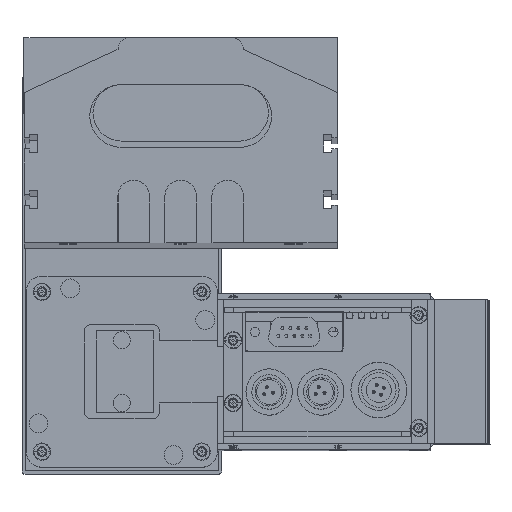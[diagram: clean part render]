
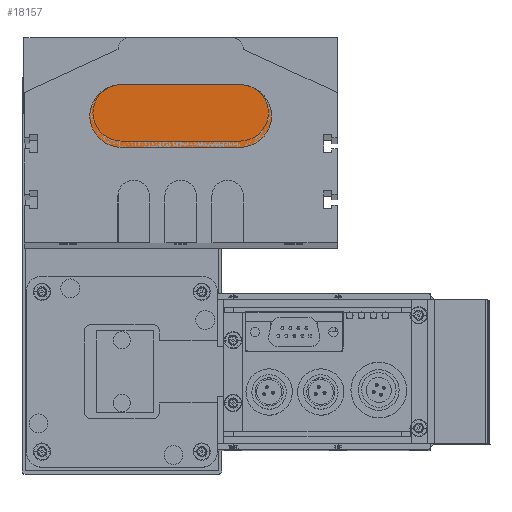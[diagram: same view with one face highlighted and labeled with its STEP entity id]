
A CAD part, top view. The second image highlights one B-rep face of the part: STEP entity #18157.
In plain terms, the highlighted planar face has unit normal (0, 0, 1).
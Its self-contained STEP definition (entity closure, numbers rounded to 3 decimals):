
#17914 = EDGE_CURVE ( 'NONE', #17977, #17982, #29071, .T. ) ;
#17977 = VERTEX_POINT ( 'NONE', #29154 ) ;
#17982 = VERTEX_POINT ( 'NONE', #29204 ) ;
#18033 = VERTEX_POINT ( 'NONE', #29257 ) ;
#18047 = VERTEX_POINT ( 'NONE', #29284 ) ;
#18048 = EDGE_CURVE ( 'NONE', #18047, #17977, #29291, .T. ) ;
#18070 = ORIENTED_EDGE ( 'NONE', *, *, #18109, .T. ) ;
#18071 = VERTEX_POINT ( 'NONE', #29354 ) ;
#18075 = EDGE_LOOP ( 'NONE', ( #18133, #18151, #18131, #18070, #18155 ) ) ;
#18077 = EDGE_CURVE ( 'NONE', #17982, #18033, #29390, .T. ) ;
#18107 = EDGE_CURVE ( 'NONE', #18071, #18047, #29469, .T. ) ;
#18109 = EDGE_CURVE ( 'NONE', #18033, #18071, #29463, .T. ) ;
#18131 = ORIENTED_EDGE ( 'NONE', *, *, #18077, .T. ) ;
#18133 = ORIENTED_EDGE ( 'NONE', *, *, #18048, .T. ) ;
#18151 = ORIENTED_EDGE ( 'NONE', *, *, #17914, .T. ) ;
#18155 = ORIENTED_EDGE ( 'NONE', *, *, #18107, .T. ) ;
#18157 = ADVANCED_FACE ( 'NONE', ( #29512 ), #29552, .T. ) ;
#29066 = DIRECTION ( 'NONE',  ( 1., 0., 0. ) ) ;
#29067 = DIRECTION ( 'NONE',  ( 0., 0., 1. ) ) ;
#29068 = AXIS2_PLACEMENT_3D ( 'NONE', #29081, #29067, #29066 ) ;
#29071 = CIRCLE ( 'NONE', #29068, 10. ) ;
#29081 = CARTESIAN_POINT ( 'NONE',  ( 0., 10., 10. ) ) ;
#29154 = CARTESIAN_POINT ( 'NONE',  ( -10., 10., 10. ) ) ;
#29204 = CARTESIAN_POINT ( 'NONE',  ( 0., 0., 10. ) ) ;
#29257 = CARTESIAN_POINT ( 'NONE',  ( 38., 0., 10. ) ) ;
#29284 = CARTESIAN_POINT ( 'NONE',  ( 0., 20., 10. ) ) ;
#29291 = CIRCLE ( 'NONE', #29344, 10. ) ;
#29331 = DIRECTION ( 'NONE',  ( 1., 0., 0. ) ) ;
#29332 = DIRECTION ( 'NONE',  ( 0., 0., 1. ) ) ;
#29333 = CARTESIAN_POINT ( 'NONE',  ( 0., 10., 10. ) ) ;
#29344 = AXIS2_PLACEMENT_3D ( 'NONE', #29333, #29332, #29331 ) ;
#29354 = CARTESIAN_POINT ( 'NONE',  ( 38., 20., 10. ) ) ;
#29387 = DIRECTION ( 'NONE',  ( 1., 0., 0. ) ) ;
#29388 = VECTOR ( 'NONE', #29387, 1000. ) ;
#29389 = CARTESIAN_POINT ( 'NONE',  ( 0., 0., 10. ) ) ;
#29390 = LINE ( 'NONE', #29389, #29388 ) ;
#29438 = DIRECTION ( 'NONE',  ( -1., 0., 0. ) ) ;
#29439 = DIRECTION ( 'NONE',  ( 0., 0., 1. ) ) ;
#29440 = CARTESIAN_POINT ( 'NONE',  ( 38., 10., 10. ) ) ;
#29441 = AXIS2_PLACEMENT_3D ( 'NONE', #29440, #29439, #29438 ) ;
#29447 = DIRECTION ( 'NONE',  ( -1., 0., 0. ) ) ;
#29448 = VECTOR ( 'NONE', #29447, 1000. ) ;
#29452 = CARTESIAN_POINT ( 'NONE',  ( 0., 20., 10. ) ) ;
#29463 = CIRCLE ( 'NONE', #29441, 10. ) ;
#29469 = LINE ( 'NONE', #29452, #29448 ) ;
#29512 = FACE_OUTER_BOUND ( 'NONE', #18075, .T. ) ;
#29538 = DIRECTION ( 'NONE',  ( 1., 0., 0. ) ) ;
#29539 = DIRECTION ( 'NONE',  ( 0., 0., 1. ) ) ;
#29540 = CARTESIAN_POINT ( 'NONE',  ( 0., 10., 10. ) ) ;
#29550 = AXIS2_PLACEMENT_3D ( 'NONE', #29540, #29539, #29538 ) ;
#29552 = PLANE ( 'NONE',  #29550 ) ;
